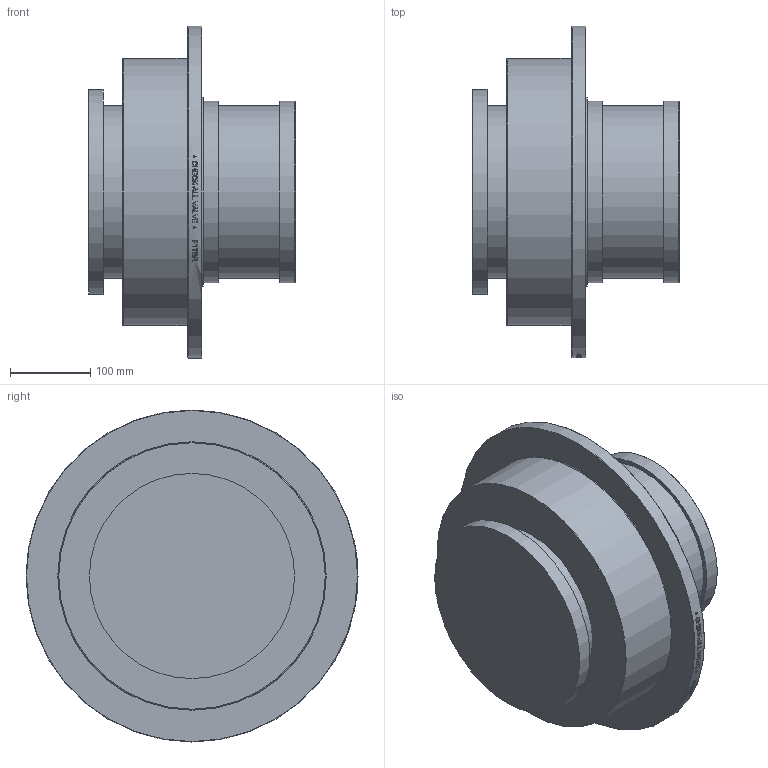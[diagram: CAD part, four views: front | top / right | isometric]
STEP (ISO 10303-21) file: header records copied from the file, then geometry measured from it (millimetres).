
FILE_DESCRIPTION( ( 'Unknown' ), '1' );
FILE_NAME( 'Y:/ENGR/3D Solid Edge Models/F1/F1 STEP/F1TBR.stp', 'Unknown', ( 'Unknown' ), ( 'Unknown' ), 'PSStep 14.0', 'Unknown', ' ' );
FILE_SCHEMA( ( 'AUTOMOTIVE_DESIGN { 1 0 10303 214 1 1 1 1 }' ) );
Length unit declared in the file: millimetre
Products named in the file (1): 1
Bounding box: 257.3 x 412.75 x 412.75 mm (x, y, z)
Volume: 15541186 mm3; surface area: 520599 mm2
Topology: 1 solids, 1 shells, 234 faces, 588 edges, 390 vertices
Faces by surface type: plane 140, bspline 51, cylinder 35, torus 4, cone 4
Full cylindrical faces by diameter (mm): 214.884 x2, 225.933 x2, 255.016 x1, 332.156 x1, 412.75 x1
Entity records: 12363 total; most frequent: CARTESIAN_POINT 6144, ORIENTED_EDGE 1142, EDGE_CURVE 571, B_SPLINE_CURVE_WITH_KNOTS 549, DIRECTION 412, VERTEX_POINT 389, EDGE_LOOP 283, FACE_OUTER_BOUND 245
